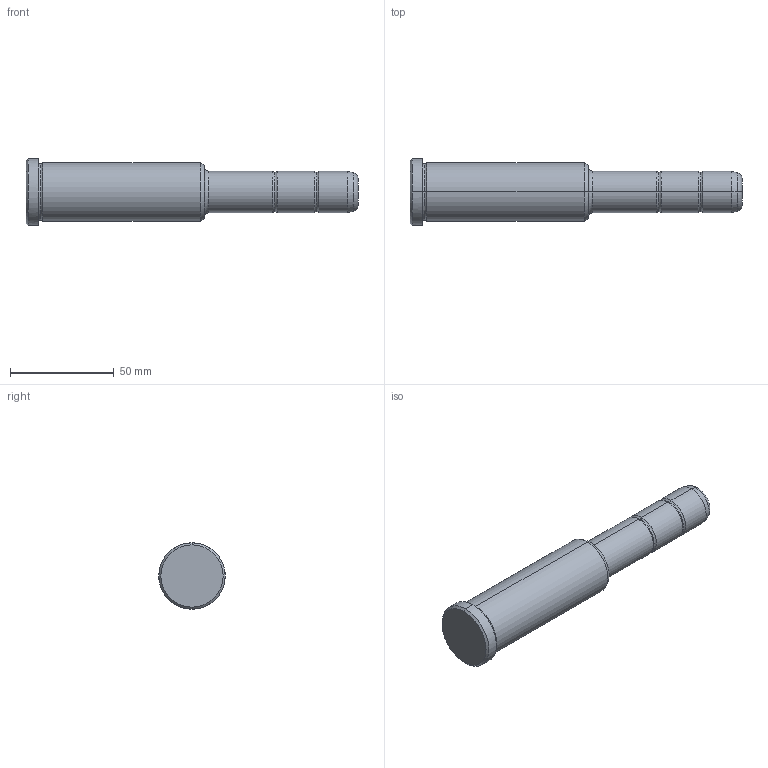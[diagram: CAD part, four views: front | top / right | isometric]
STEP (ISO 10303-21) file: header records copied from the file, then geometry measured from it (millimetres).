
FILE_DESCRIPTION(('CATIA V5 STEP Exchange'),'2;1');
FILE_NAME('C:\Users\Utente\Desktop\IO LAVORO\3D X SITO CF\X SITO\PLASTICA\351\351-20X86X160.stp','2021-08-27T13:06:36+00:00',('none'),('none'),'CATIA Version 5 Release 20 GA (IN-10)','CATIA V5 STEP AP203','none');
FILE_SCHEMA(('CONFIG_CONTROL_DESIGN'));
Length unit declared in the file: millimetre
Products named in the file (1): 351-20X86X160
Bounding box: 160 x 32 x 32 mm (x, y, z)
Volume: 76841.2 mm3; surface area: 13632.5 mm2
Topology: 1 solids, 1 shells, 36 faces, 102 edges, 70 vertices
Faces by surface type: torus 16, cylinder 10, cone 6, plane 4
Entity records: 1292 total; most frequent: CARTESIAN_POINT 321, ORIENTED_EDGE 204, DIRECTION 166, AXIS2_PLACEMENT_3D 115, EDGE_CURVE 102, CIRCLE 78, VERTEX_POINT 70, EDGE_LOOP 38
